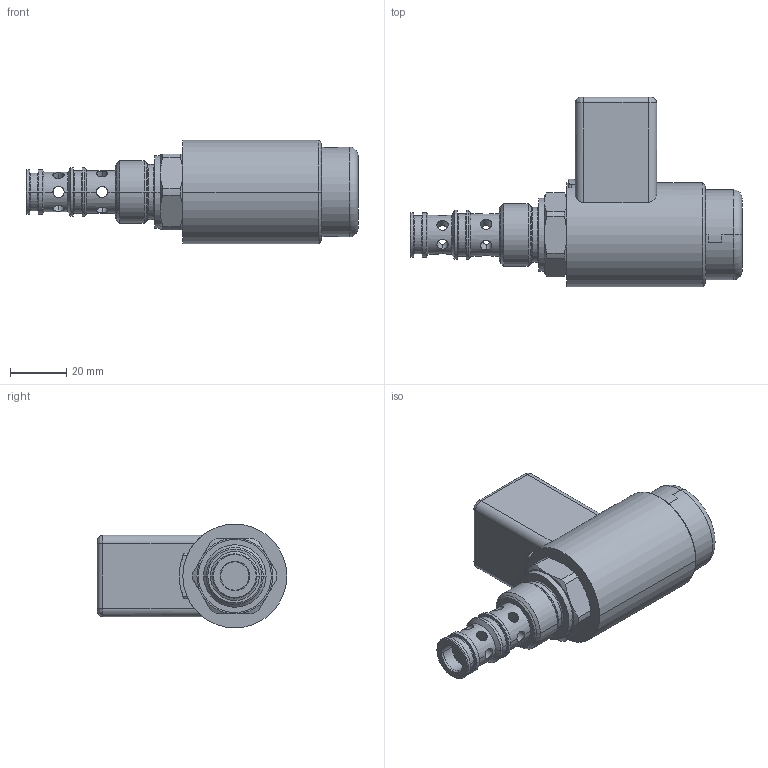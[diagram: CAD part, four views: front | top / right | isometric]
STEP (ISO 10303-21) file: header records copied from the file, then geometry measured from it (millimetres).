
FILE_DESCRIPTION((''),'2;1');
FILE_NAME('SD2E_B3_S','2011-03-14T',('tvatras'),(''),'PRO/ENGINEER BY PARAMETRIC TECHNOLOGY CORPORATION, 2010180','PRO/ENGINEER BY PARAMETRIC TECHNOLOGY CORPORATION, 2010180','');
FILE_SCHEMA(('CONFIG_CONTROL_DESIGN'));
Length unit declared in the file: millimetre
Products named in the file (1): SD2E_B3_S
Bounding box: 118.25 x 67.5 x 37 mm (x, y, z)
Volume: 105869.5 mm3; surface area: 17970 mm2
Topology: 1 solids, 4 shells, 151 faces, 377 edges, 228 vertices
Faces by surface type: cylinder 75, plane 28, cone 28, torus 16, bspline 4
Entity records: 5244 total; most frequent: CARTESIAN_POINT 1642, DIRECTION 752, ORIENTED_EDGE 740, EDGE_CURVE 374, AXIS2_PLACEMENT_3D 314, VERTEX_POINT 226, EDGE_LOOP 170, CIRCLE 165
